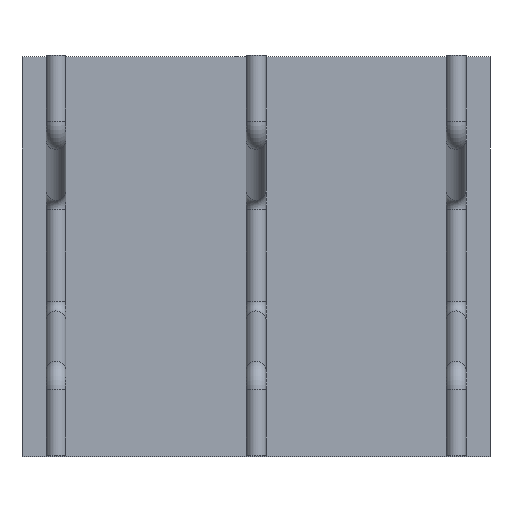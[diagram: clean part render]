
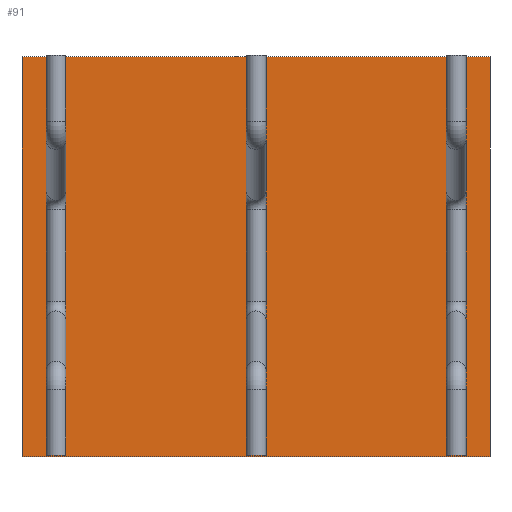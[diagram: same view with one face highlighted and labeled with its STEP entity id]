
A CAD part, top view. The second image highlights one B-rep face of the part: STEP entity #91.
In plain terms, the highlighted planar face has unit normal (0, 0, 1).
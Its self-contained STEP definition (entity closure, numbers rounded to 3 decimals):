
#52=CARTESIAN_POINT('Axis2P3D Location',(0.,0.,0.)) ;
#57=CARTESIAN_POINT('Line Origine',(0.,500.,0.)) ;
#61=CARTESIAN_POINT('Vertex',(585.,500.,0.)) ;
#63=CARTESIAN_POINT('Vertex',(-585.,500.,0.)) ;
#66=CARTESIAN_POINT('Line Origine',(-585.,0.,0.)) ;
#70=CARTESIAN_POINT('Vertex',(-585.,-500.,0.)) ;
#73=CARTESIAN_POINT('Line Origine',(0.,-500.,0.)) ;
#77=CARTESIAN_POINT('Vertex',(585.,-500.,0.)) ;
#80=CARTESIAN_POINT('Line Origine',(585.,0.,0.)) ;
#53=DIRECTION('Axis2P3D Direction',(0.,0.,1.)) ;
#54=DIRECTION('Axis2P3D XDirection',(1.,0.,0.)) ;
#58=DIRECTION('Vector Direction',(1.,0.,0.)) ;
#67=DIRECTION('Vector Direction',(0.,1.,0.)) ;
#74=DIRECTION('Vector Direction',(-1.,0.,0.)) ;
#81=DIRECTION('Vector Direction',(0.,-1.,0.)) ;
#55=AXIS2_PLACEMENT_3D('Plane Axis2P3D',#52,#53,#54) ;
#86=ORIENTED_EDGE('',*,*,#65,.T.) ;
#87=ORIENTED_EDGE('',*,*,#72,.T.) ;
#88=ORIENTED_EDGE('',*,*,#79,.T.) ;
#89=ORIENTED_EDGE('',*,*,#84,.T.) ;
#59=VECTOR('Line Direction',#58,1.) ;
#68=VECTOR('Line Direction',#67,1.) ;
#75=VECTOR('Line Direction',#74,1.) ;
#82=VECTOR('Line Direction',#81,1.) ;
#91=ADVANCED_FACE('Fill.1',(#90),#56,.T.) ;
#65=EDGE_CURVE('',#62,#64,#60,.F.) ;
#72=EDGE_CURVE('',#64,#71,#69,.F.) ;
#79=EDGE_CURVE('',#71,#78,#76,.F.) ;
#84=EDGE_CURVE('',#78,#62,#83,.F.) ;
#85=EDGE_LOOP('',(#86,#87,#88,#89)) ;
#90=FACE_OUTER_BOUND('',#85,.T.) ;
#60=LINE('Line',#57,#59) ;
#69=LINE('Line',#66,#68) ;
#76=LINE('Line',#73,#75) ;
#83=LINE('Line',#80,#82) ;
#56=PLANE('',#55) ;
#62=VERTEX_POINT('',#61) ;
#64=VERTEX_POINT('',#63) ;
#71=VERTEX_POINT('',#70) ;
#78=VERTEX_POINT('',#77) ;
